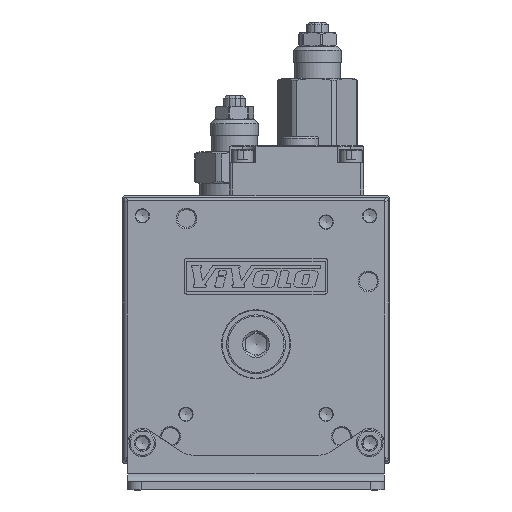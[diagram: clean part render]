
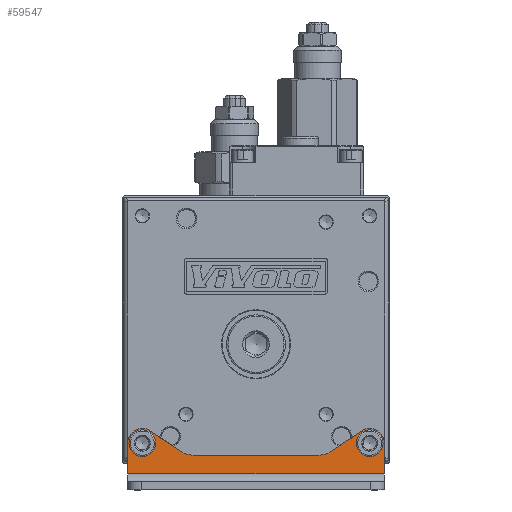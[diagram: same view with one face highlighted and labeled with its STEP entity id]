
A CAD part, front view. The second image highlights one B-rep face of the part: STEP entity #59547.
In plain terms, the highlighted planar face has unit normal (0, -1, 0).
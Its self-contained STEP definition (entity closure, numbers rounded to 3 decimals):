
#1746=LINE('',#79598,#4921);
#1747=LINE('',#79600,#4922);
#1748=LINE('',#79605,#4923);
#1749=LINE('',#79606,#4924);
#1750=LINE('',#79610,#4925);
#1751=LINE('',#79614,#4926);
#4921=VECTOR('',#67356,1000.);
#4922=VECTOR('',#67359,1000.);
#4923=VECTOR('',#67362,1000.);
#4924=VECTOR('',#67363,1000.);
#4925=VECTOR('',#67366,1000.);
#4926=VECTOR('',#67369,1000.);
#7892=PLANE('',#62534);
#11112=ORIENTED_EDGE('',*,*,#22045,.T.);
#11113=ORIENTED_EDGE('',*,*,#22044,.T.);
#11114=ORIENTED_EDGE('',*,*,#22094,.T.);
#11115=ORIENTED_EDGE('',*,*,#22095,.T.);
#11116=ORIENTED_EDGE('',*,*,#22096,.T.);
#11117=ORIENTED_EDGE('',*,*,#22093,.F.);
#11118=ORIENTED_EDGE('',*,*,#22097,.F.);
#11119=ORIENTED_EDGE('',*,*,#22098,.T.);
#11120=ORIENTED_EDGE('',*,*,#22099,.T.);
#11121=ORIENTED_EDGE('',*,*,#22100,.T.);
#11122=ORIENTED_EDGE('',*,*,#22101,.T.);
#11123=ORIENTED_EDGE('',*,*,#22102,.T.);
#22044=EDGE_CURVE('',#27629,#27629,#31346,.T.);
#22045=EDGE_CURVE('',#27630,#27630,#31347,.T.);
#22093=EDGE_CURVE('',#27673,#27672,#1746,.T.);
#22094=EDGE_CURVE('',#27674,#27675,#1747,.T.);
#22095=EDGE_CURVE('',#27675,#27676,#31370,.F.);
#22096=EDGE_CURVE('',#27676,#27672,#1748,.T.);
#22097=EDGE_CURVE('',#27677,#27673,#1749,.T.);
#22098=EDGE_CURVE('',#27677,#27678,#31371,.F.);
#22099=EDGE_CURVE('',#27678,#27679,#1750,.T.);
#22100=EDGE_CURVE('',#27679,#27680,#31372,.T.);
#22101=EDGE_CURVE('',#27680,#27681,#1751,.T.);
#22102=EDGE_CURVE('',#27681,#27674,#31373,.T.);
#27629=VERTEX_POINT('',#79484);
#27630=VERTEX_POINT('',#79487);
#27672=VERTEX_POINT('',#79595);
#27673=VERTEX_POINT('',#79597);
#27674=VERTEX_POINT('',#79601);
#27675=VERTEX_POINT('',#79602);
#27676=VERTEX_POINT('',#79604);
#27677=VERTEX_POINT('',#79607);
#27678=VERTEX_POINT('',#79609);
#27679=VERTEX_POINT('',#79611);
#27680=VERTEX_POINT('',#79613);
#27681=VERTEX_POINT('',#79615);
#31346=CIRCLE('',#62489,5.);
#31347=CIRCLE('',#62491,5.);
#31370=CIRCLE('',#62535,5.5);
#31371=CIRCLE('',#62536,5.5);
#31372=CIRCLE('',#62537,10.);
#31373=CIRCLE('',#62538,10.);
#32908=EDGE_LOOP('',(#11112));
#32909=EDGE_LOOP('',(#11113));
#32910=EDGE_LOOP('',(#11114,#11115,#11116,#11117,#11118,#11119,#11120,#11121,
#11122,#11123));
#36421=FACE_BOUND('',#32908,.T.);
#36422=FACE_BOUND('',#32909,.T.);
#36423=FACE_BOUND('',#32910,.T.);
#59547=ADVANCED_FACE('',(#36421,#36422,#36423),#7892,.F.);
#62489=AXIS2_PLACEMENT_3D('',#79483,#67241,#67242);
#62491=AXIS2_PLACEMENT_3D('',#79486,#67245,#67246);
#62534=AXIS2_PLACEMENT_3D('',#79599,#67357,#67358);
#62535=AXIS2_PLACEMENT_3D('',#79603,#67360,#67361);
#62536=AXIS2_PLACEMENT_3D('',#79608,#67364,#67365);
#62537=AXIS2_PLACEMENT_3D('',#79612,#67367,#67368);
#62538=AXIS2_PLACEMENT_3D('',#79616,#67370,#67371);
#67241=DIRECTION('',(0.,1.,0.));
#67242=DIRECTION('',(1.,0.,0.));
#67245=DIRECTION('',(0.,1.,0.));
#67246=DIRECTION('',(1.,0.,0.));
#67356=DIRECTION('',(-1.,0.,0.));
#67357=DIRECTION('',(0.,1.,0.));
#67358=DIRECTION('',(0.,0.,1.));
#67359=DIRECTION('',(-0.827,0.,0.561));
#67360=DIRECTION('',(0.,1.,0.));
#67361=DIRECTION('',(0.,0.,1.));
#67362=DIRECTION('',(0.,0.,-1.));
#67363=DIRECTION('',(0.,0.,-1.));
#67364=DIRECTION('',(0.,1.,0.));
#67365=DIRECTION('',(0.,0.,1.));
#67366=DIRECTION('',(-0.827,0.,-0.561));
#67367=DIRECTION('',(0.,1.,0.));
#67368=DIRECTION('',(0.,0.,1.));
#67369=DIRECTION('',(-1.,0.,0.));
#67370=DIRECTION('',(0.,1.,0.));
#67371=DIRECTION('',(0.,0.,1.));
#79483=CARTESIAN_POINT('',(-42.5,-22.5,-42.5));
#79484=CARTESIAN_POINT('',(-37.5,-22.5,-42.5));
#79486=CARTESIAN_POINT('',(42.5,-22.5,-42.5));
#79487=CARTESIAN_POINT('',(47.5,-22.5,-42.5));
#79595=CARTESIAN_POINT('',(-48.,-22.5,-54.));
#79597=CARTESIAN_POINT('',(48.,-22.5,-54.));
#79598=CARTESIAN_POINT('',(48.,-22.5,-54.));
#79599=CARTESIAN_POINT('',(48.,-22.5,-54.));
#79600=CARTESIAN_POINT('',(27.901,-22.5,-83.622));
#79601=CARTESIAN_POINT('',(-28.615,-22.5,-45.275));
#79602=CARTESIAN_POINT('',(-39.412,-22.5,-37.949));
#79603=CARTESIAN_POINT('',(-42.5,-22.5,-42.5));
#79604=CARTESIAN_POINT('',(-48.,-22.5,-42.5));
#79605=CARTESIAN_POINT('',(-48.,-22.5,-54.));
#79606=CARTESIAN_POINT('',(48.,-22.5,-54.));
#79607=CARTESIAN_POINT('',(48.,-22.5,-42.5));
#79608=CARTESIAN_POINT('',(42.5,-22.5,-42.5));
#79609=CARTESIAN_POINT('',(39.412,-22.5,-37.949));
#79610=CARTESIAN_POINT('',(37.835,-22.5,-39.019));
#79611=CARTESIAN_POINT('',(28.615,-22.5,-45.275));
#79612=CARTESIAN_POINT('',(23.,-22.5,-37.));
#79613=CARTESIAN_POINT('',(23.,-22.5,-47.));
#79614=CARTESIAN_POINT('',(48.,-22.5,-47.));
#79615=CARTESIAN_POINT('',(-23.,-22.5,-47.));
#79616=CARTESIAN_POINT('',(-23.,-22.5,-37.));
